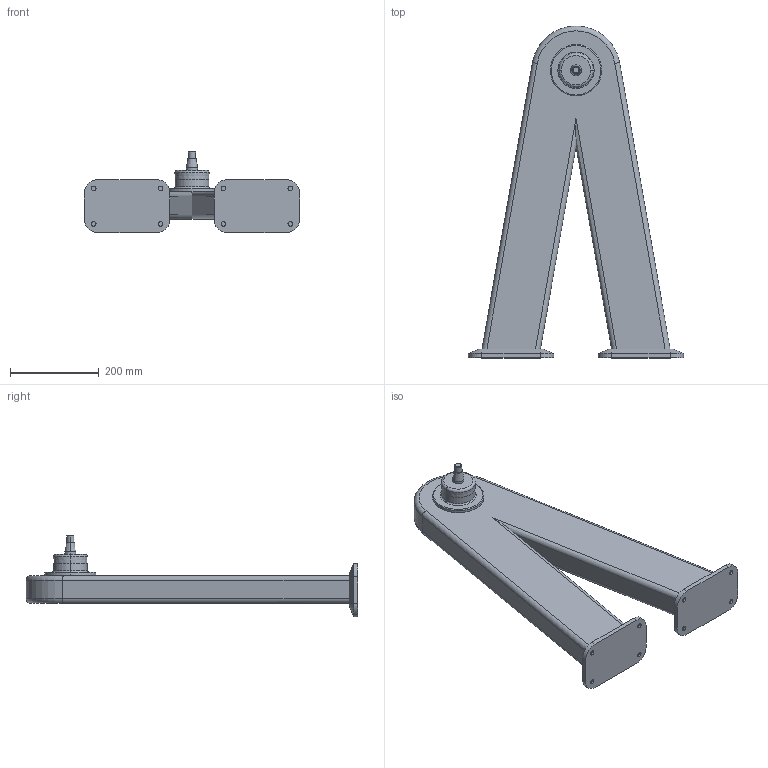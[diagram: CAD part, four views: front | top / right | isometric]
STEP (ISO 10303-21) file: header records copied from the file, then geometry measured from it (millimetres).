
FILE_DESCRIPTION (( 'STEP AP214' ), '1' );
FILE_NAME ('WP850_H650.STEP', '2014-09-08T13:02:48', ( '' ), ( '' ), 'SwSTEP 2.0', 'SolidWorks 2014', '' );
FILE_SCHEMA (( 'AUTOMOTIVE_DESIGN' ));
Length unit declared in the file: millimetre
Products named in the file (1): WP850_H650
Bounding box: 486.25 x 750 x 183.98 mm (x, y, z)
Volume: 12046394.7 mm3; surface area: 590566.9 mm2
Topology: 1 solids, 1 shells, 101 faces, 221 edges, 136 vertices
Faces by surface type: cylinder 41, plane 38, cone 14, torus 8
Entity records: 2795 total; most frequent: DIRECTION 513, CARTESIAN_POINT 489, ORIENTED_EDGE 442, EDGE_CURVE 221, AXIS2_PLACEMENT_3D 200, VERTEX_POINT 136, EDGE_LOOP 115, LINE 113
